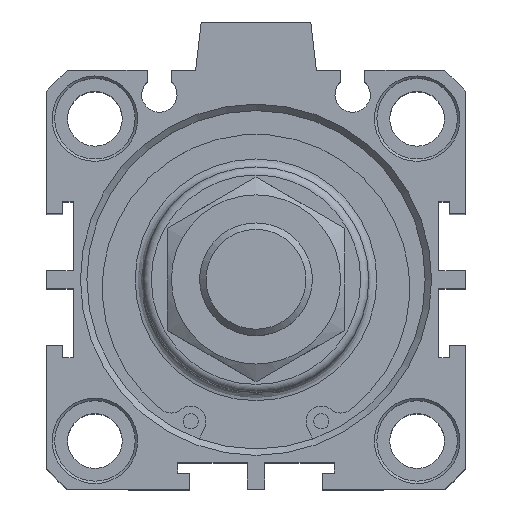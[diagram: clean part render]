
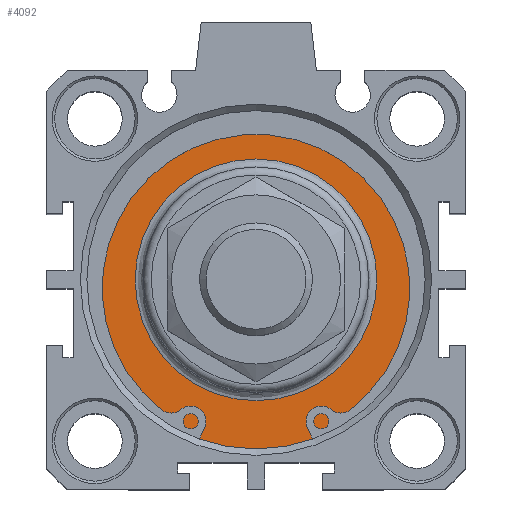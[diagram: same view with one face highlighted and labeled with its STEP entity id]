
A CAD part, top view. The second image highlights one B-rep face of the part: STEP entity #4092.
In plain terms, the highlighted planar face has unit normal (0, 0, 1).
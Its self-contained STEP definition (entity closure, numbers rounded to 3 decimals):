
#4041=CARTESIAN_POINT('',(-1.555,16.077,52.4));
#4042=VERTEX_POINT('',#4041);
#4043=CARTESIAN_POINT('',(-1.555,1.077,52.4));
#4044=DIRECTION('',(0.0,0.0,1.0));
#4045=DIRECTION('',(0.0,-1.0,0.0));
#4046=AXIS2_PLACEMENT_3D('',#4043,#4044,#4045);
#4047=CIRCLE('',#4046,15.);
#4048=EDGE_CURVE('',#4042,#4042,#4047,.T.);
#4073=CARTESIAN_POINT('',(-1.555,18.577,52.4));
#4074=DIRECTION('',(0.0,0.0,1.0));
#4075=DIRECTION('',(1.0,0.0,0.0));
#4076=AXIS2_PLACEMENT_3D('',#4073,#4074,#4075);
#4077=PLANE('',#4076);
#4078=CARTESIAN_POINT('',(-1.555,22.077,52.4));
#4079=VERTEX_POINT('',#4078);
#4080=CARTESIAN_POINT('',(-1.555,1.077,52.4));
#4081=DIRECTION('',(0.0,0.0,-1.0));
#4082=DIRECTION('',(0.0,1.0,0.0));
#4083=AXIS2_PLACEMENT_3D('',#4080,#4081,#4082);
#4084=CIRCLE('',#4083,21.);
#4085=EDGE_CURVE('',#4079,#4079,#4084,.T.);
#4086=ORIENTED_EDGE('',*,*,#4085,.F.);
#4087=EDGE_LOOP('',(#4086));
#4088=FACE_OUTER_BOUND('',#4087,.T.);
#4089=ORIENTED_EDGE('',*,*,#4048,.F.);
#4090=EDGE_LOOP('',(#4089));
#4091=FACE_BOUND('',#4090,.T.);
#4092=ADVANCED_FACE('',(#4088,#4091),#4077,.T.);
